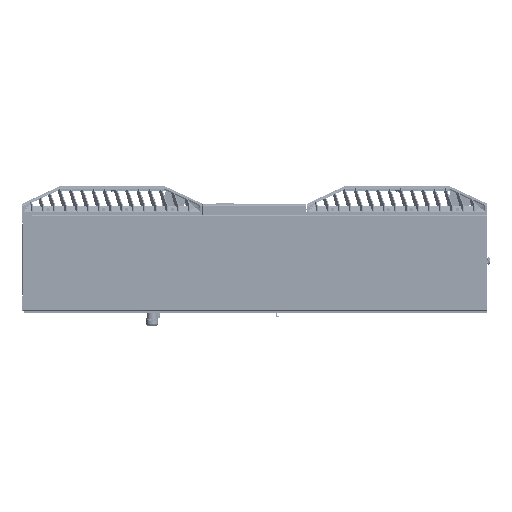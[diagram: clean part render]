
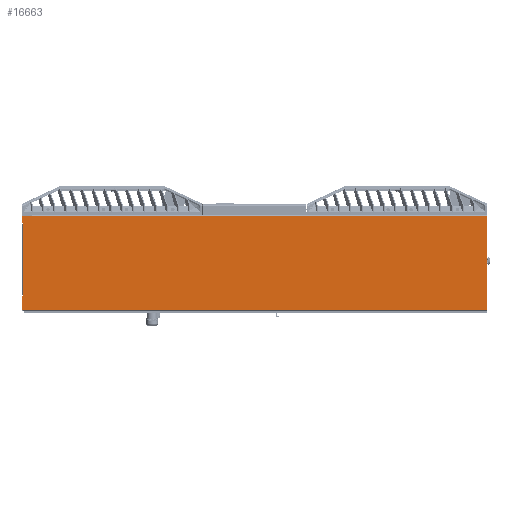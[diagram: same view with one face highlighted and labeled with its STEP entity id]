
A CAD part, left-side view. The second image highlights one B-rep face of the part: STEP entity #16663.
In plain terms, the highlighted planar face has unit normal (-1, 0, 0).
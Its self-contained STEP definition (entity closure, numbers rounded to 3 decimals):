
#6045=CARTESIAN_POINT('',(-197.5,949.,2.));
#6050=DIRECTION('',(0.,-1.,0.));
#6051=VECTOR('',#6050,949.);
#6052=CARTESIAN_POINT('',(-197.5,949.,2.));
#6053=LINE('',#6052,#6051);
#6057=DIRECTION('',(0.,0.866,0.5));
#6058=VECTOR('',#6057,2.309);
#6059=CARTESIAN_POINT('',(-197.5,947.,178.));
#6060=LINE('',#6059,#6058);
#6064=DIRECTION('',(0.,0.,1.));
#6065=VECTOR('',#6064,13.845);
#6066=CARTESIAN_POINT('',(-197.5,949.,179.155));
#6067=LINE('',#6066,#6065);
#6071=CARTESIAN_POINT('',(-197.5,949.,193.));
#6072=CARTESIAN_POINT('',(-197.5,948.971,193.305));
#6073=CARTESIAN_POINT('',(-197.5,948.776,193.776));
#6074=CARTESIAN_POINT('',(-197.5,948.305,193.971));
#6075=CARTESIAN_POINT('',(-197.5,948.,194.));
#6080=DIRECTION('',(0.,-0.5,-0.866));
#6081=VECTOR('',#6080,1.155);
#6082=CARTESIAN_POINT('',(-197.5,930.577,194.));
#6083=LINE('',#6082,#6081);
#6087=DIRECTION('',(0.,0.,1.));
#6088=VECTOR('',#6087,28.845);
#6089=CARTESIAN_POINT('',(-197.5,949.,2.));
#6090=LINE('',#6089,#6088);
#6094=DIRECTION('',(0.,-0.866,0.5));
#6095=VECTOR('',#6094,2.309);
#6096=CARTESIAN_POINT('',(-197.5,949.,30.845));
#6097=LINE('',#6096,#6095);
#6124=DIRECTION('',(0.,0.,-1.));
#6125=VECTOR('',#6124,146.);
#6126=CARTESIAN_POINT('',(-197.5,947.,178.));
#6127=LINE('',#6126,#6125);
#6358=DIRECTION('',(0.,0.,1.));
#6359=VECTOR('',#6358,191.);
#6360=CARTESIAN_POINT('',(-197.5,0.,2.));
#6361=LINE('',#6360,#6359);
#6406=DIRECTION('',(0.,1.,0.));
#6407=VECTOR('',#6406,930.);
#6408=CARTESIAN_POINT('',(-197.5,0.,193.));
#6409=LINE('',#6408,#6407);
#6434=DIRECTION('',(0.,1.,0.));
#6435=VECTOR('',#6434,17.423);
#6436=CARTESIAN_POINT('',(-197.5,930.577,194.));
#6437=LINE('',#6436,#6435);
#12172=VERTEX_POINT('',#6045);
#12174=CARTESIAN_POINT('',(-197.5,0.,2.));
#12175=VERTEX_POINT('',#12174);
#12176=CARTESIAN_POINT('',(-197.5,947.,178.));
#12177=CARTESIAN_POINT('',(-197.5,949.,179.155));
#12178=VERTEX_POINT('',#12176);
#12179=VERTEX_POINT('',#12177);
#12180=CARTESIAN_POINT('',(-197.5,949.,193.));
#12181=VERTEX_POINT('',#12180);
#12182=VERTEX_POINT('',#6075);
#12183=CARTESIAN_POINT('',(-197.5,930.577,194.));
#12184=VERTEX_POINT('',#12183);
#12185=CARTESIAN_POINT('',(-197.5,930.,193.));
#12186=VERTEX_POINT('',#12185);
#12187=CARTESIAN_POINT('',(-197.5,0.,193.));
#12188=VERTEX_POINT('',#12187);
#12189=CARTESIAN_POINT('',(-197.5,949.,30.845));
#12190=VERTEX_POINT('',#12189);
#12191=CARTESIAN_POINT('',(-197.5,947.,32.));
#12192=VERTEX_POINT('',#12191);
#16635=CARTESIAN_POINT('',(-197.5,0.,211.));
#16636=DIRECTION('',(-1.,0.,0.));
#16637=DIRECTION('',(0.,0.,-1.));
#16638=AXIS2_PLACEMENT_3D('',#16635,#16636,#16637);
#16639=PLANE('',#16638);
#16641=ORIENTED_EDGE('',*,*,#16640,.T.);
#16643=ORIENTED_EDGE('',*,*,#16642,.T.);
#16645=ORIENTED_EDGE('',*,*,#16644,.T.);
#16647=ORIENTED_EDGE('',*,*,#16646,.F.);
#16649=ORIENTED_EDGE('',*,*,#16648,.T.);
#16651=ORIENTED_EDGE('',*,*,#16650,.F.);
#16653=ORIENTED_EDGE('',*,*,#16652,.F.);
#16654=ORIENTED_EDGE('',*,*,#16628,.F.);
#16656=ORIENTED_EDGE('',*,*,#16655,.T.);
#16658=ORIENTED_EDGE('',*,*,#16657,.T.);
#16660=ORIENTED_EDGE('',*,*,#16659,.F.);
#16661=EDGE_LOOP('',(#16641,#16643,#16645,#16647,#16649,#16651,#16653,#16654,
#16656,#16658,#16660));
#16662=FACE_OUTER_BOUND('',#16661,.F.);
#6076=B_SPLINE_CURVE_WITH_KNOTS('',3,(#6071,#6072,#6073,#6074,#6075),
.UNSPECIFIED.,.F.,.F.,(4,1,4),(0.,0.5,1.),.UNSPECIFIED.);
#16628=EDGE_CURVE('',#12172,#12175,#6053,.T.);
#16640=EDGE_CURVE('',#12178,#12179,#6060,.T.);
#16642=EDGE_CURVE('',#12179,#12181,#6067,.T.);
#16644=EDGE_CURVE('',#12181,#12182,#6076,.T.);
#16646=EDGE_CURVE('',#12184,#12182,#6437,.T.);
#16648=EDGE_CURVE('',#12184,#12186,#6083,.T.);
#16650=EDGE_CURVE('',#12188,#12186,#6409,.T.);
#16652=EDGE_CURVE('',#12175,#12188,#6361,.T.);
#16655=EDGE_CURVE('',#12172,#12190,#6090,.T.);
#16657=EDGE_CURVE('',#12190,#12192,#6097,.T.);
#16659=EDGE_CURVE('',#12178,#12192,#6127,.T.);
#16663=ADVANCED_FACE('',(#16662),#16639,.T.);
